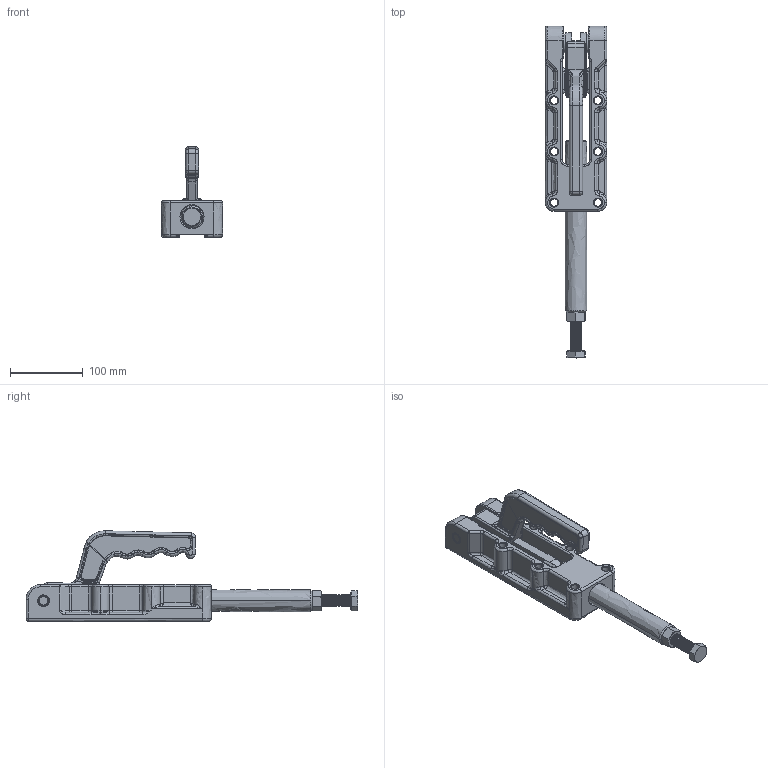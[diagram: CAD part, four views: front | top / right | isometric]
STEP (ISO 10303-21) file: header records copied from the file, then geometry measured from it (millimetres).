
FILE_DESCRIPTION((''),' ');
FILE_NAME('35000-m.stp',' ',('Rui Rosa'),('Fixsolda, Lda'),' ','ACIS 14.0',' ');
FILE_SCHEMA(('automotive_design'));
Length unit declared in the file: inch
Products named in the file (12): Bauteil_6424; Bauteil_6418; Bauteil_12795; Bauteil_6422; Bauteil_6415; Bauteil_6414; Bauteil_12794; Flächenseite_45; Bauteil_12793; Bauteil_12792; Flächenseite_48; Bauteil_6421
Bounding box: 84.48 x 454.97 x 123.86 mm (x, y, z)
Volume: 293021.6 mm3; surface area: 200902.6 mm2
Topology: 9 solids, 907 shells, 1954 faces, 9175 edges, 8105 vertices
Faces by surface type: bspline 1954
Entity records: 305016 total; most frequent: CARTESIAN_POINT 214884, ORIENTED_EDGE 12643, PRESENTATION_STYLE_ASSIGNMENT 9948, COLOUR_RGB 9948, EDGE_CURVE 9102, VERTEX_POINT 8058, STYLED_ITEM 7999, CURVE_STYLE 5490
